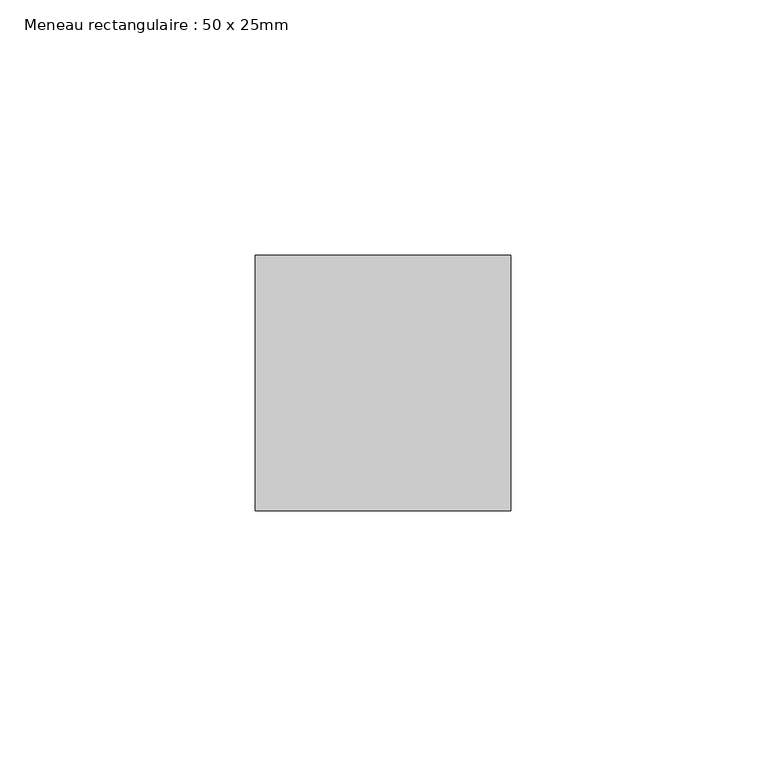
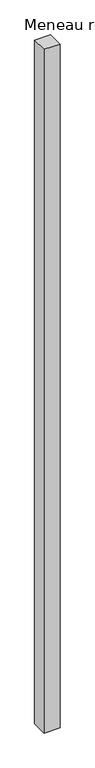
"""IFC4 building model written with IfcOpenShell, lengths in millimetres: member geometry, Meneau rectangulaire : 50 x 25mm."""

from ifc_helpers import new_model, si_unit, frame, origin, place, context, project, spatial, polyline, outline, extrude, source, transform, mapped, element, save


def meneau_rectangulaire_50_x_25mm_a5b0aa40(model_context):
    return source(origin(), model_context, "Body", "SweptSolid", [
        extrude(outline(polyline([(0.0, 50.0), (0.0, 0.0), (-50.0, 0.0), (-50.0, 50.0), (0.0, 50.0)])), frame((0.0, 0.0, -2250.0), z_axis=(0.0, 0.0, 1.0), x_axis=(1.0, 0.0, 0.0)), (0.0, 0.0, 1.0), 2250.0),
    ])


if __name__ == "__main__":
    model = new_model("IFC4")
    model_context = context("Model", 3, world=origin())
    ifc_project = project(units=[si_unit("LENGTHUNIT", "METRE", prefix="MILLI")], contexts=[model_context])
    site = spatial("IfcSite", under=ifc_project)
    building = spatial("IfcBuilding", under=site)
    placement = place(None, origin())
    meneau_rectangulaire_50_x_25mm_shape = meneau_rectangulaire_50_x_25mm_a5b0aa40(model_context)
    element("IfcMember", 1, ObjectType="Meneau rectangulaire : 50 x 25mm", at=placement, inside=building, context=model_context, shape_type="MappedRepresentation", body=[
        mapped(meneau_rectangulaire_50_x_25mm_shape, transform((0.0, 0.0, 0.0), x_axis=(1.0, 0.0, 0.0), y_axis=(0.0, 1.0, 0.0), z_axis=(0.0, 0.0, 1.0))),
    ])
    save(model, "model.ifc")
